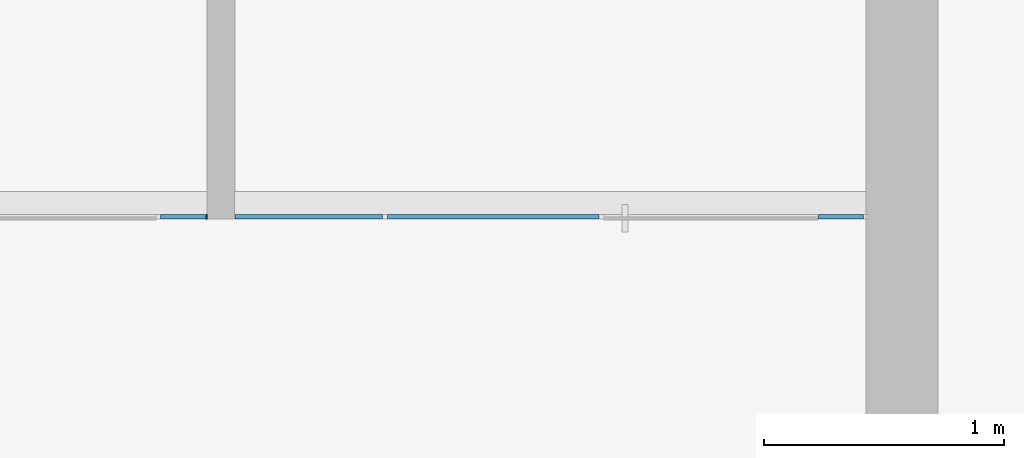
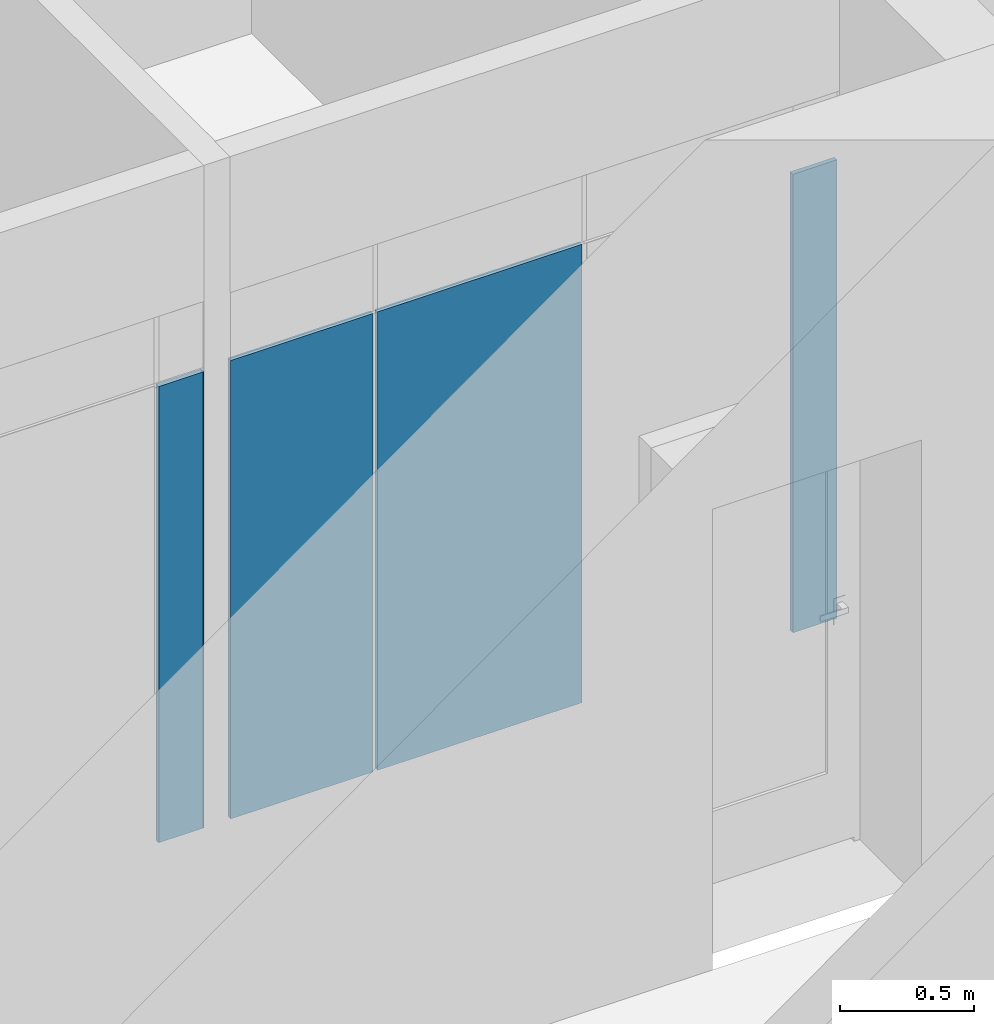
# One storey, part 12 of 49: 5 plates, 2 elements without a shape of their own.
"""IFC2X3 building model written with IfcOpenShell, lengths in millimetres."""

from ifc_helpers import new_model, entity, si_unit, converted_unit, derived_unit, direction, frame, origin, origin_2d_with_axis, place, context, subcontext, project, spatial, rectangle, extrude, source, transform, mapped, material, layer, layer_set, layer_usage, type_object, type_shapes, element, aggregate, save


model = new_model("IFC2X3")

# Units and contexts
model_context = context("Model", 3, precision=0.01, world=origin(), true_north=direction((6.12303176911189e-17, 1.0)))
body_context = subcontext(model_context, "Body", "Model", "MODEL_VIEW")
ifc_project = project(units=[si_unit("LENGTHUNIT", "METRE", prefix="MILLI"), si_unit("AREAUNIT", "SQUARE_METRE"), si_unit("VOLUMEUNIT", "CUBIC_METRE"), converted_unit("PLANEANGLEUNIT", "DEGREE", entity("IfcRatioMeasure", 0.0174532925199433), si_unit("PLANEANGLEUNIT", "RADIAN"), dimensions=[0, 0, 0, 0, 0, 0, 0]), si_unit("MASSUNIT", "GRAM", prefix="KILO"), derived_unit("MASSDENSITYUNIT", [(si_unit("MASSUNIT", "GRAM", prefix="KILO"), 1), (si_unit("LENGTHUNIT", "METRE"), -3)]), si_unit("TIMEUNIT", "SECOND"), si_unit("FREQUENCYUNIT", "HERTZ"), si_unit("THERMODYNAMICTEMPERATUREUNIT", "DEGREE_CELSIUS"), derived_unit("THERMALTRANSMITTANCEUNIT", [(si_unit("MASSUNIT", "GRAM", prefix="KILO"), 1), (si_unit("THERMODYNAMICTEMPERATUREUNIT", "KELVIN"), -1), (si_unit("TIMEUNIT", "SECOND"), -3)]), derived_unit("VOLUMETRICFLOWRATEUNIT", [(si_unit("LENGTHUNIT", "METRE"), 3), (si_unit("TIMEUNIT", "SECOND"), -1)]), si_unit("ELECTRICCURRENTUNIT", "AMPERE"), si_unit("ELECTRICVOLTAGEUNIT", "VOLT"), si_unit("POWERUNIT", "WATT"), si_unit("FORCEUNIT", "NEWTON", prefix="KILO"), si_unit("ILLUMINANCEUNIT", "LUX"), si_unit("LUMINOUSFLUXUNIT", "LUMEN"), si_unit("LUMINOUSINTENSITYUNIT", "CANDELA"), derived_unit("USERDEFINED", [(si_unit("MASSUNIT", "GRAM", prefix="KILO"), -1), (si_unit("LENGTHUNIT", "METRE"), -2), (si_unit("TIMEUNIT", "SECOND"), 3), (si_unit("LUMINOUSFLUXUNIT", "LUMEN"), 1)]), derived_unit("LINEARVELOCITYUNIT", [(si_unit("LENGTHUNIT", "METRE"), 1), (si_unit("TIMEUNIT", "SECOND"), -1)]), si_unit("PRESSUREUNIT", "PASCAL"), derived_unit("USERDEFINED", [(si_unit("LENGTHUNIT", "METRE"), -2), (si_unit("MASSUNIT", "GRAM", prefix="KILO"), 1), (si_unit("TIMEUNIT", "SECOND"), -2)])], contexts=[model_context])

# Site, building, storey
site_placement = place(None, frame((-151.875543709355, 2715.0, 0.0)))
site = spatial("IfcSite", under=ifc_project, at=site_placement, Name="Surface", CompositionType="ELEMENT")
building_placement = place(site_placement, origin())
building = spatial("IfcBuilding", under=site, at=building_placement, CompositionType="ELEMENT")
storey_placement = place(building_placement, origin())
storey = spatial("IfcBuildingStorey", under=building, at=storey_placement, Name="1 korrus", CompositionType="ELEMENT", Elevation=3.0969999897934e-10)

# Curtain wall, plates
curtain_wall_type_1 = type_object("IfcCurtainWallType", Name="Curtain Wall:Klaassein KLS-04", PredefinedType="NOTDEFINED")
curtain_wall_1_placement = place(storey_placement, origin())
curtain_wall_1 = element("IfcCurtainWall", 1, at=curtain_wall_1_placement, inside=storey, type_object=curtain_wall_type_1, Name="Curtain Wall:Klaassein KLS-04", ObjectType="Curtain Wall:Klaassein KLS-04")
ifc_material = material(Name="<Unnamed>")
ifc_layer = layer(ifc_material, 20.0)
ifc_layer_set = layer_set([ifc_layer], Name="Curtain Wall:Klaassein KLS-01")
ifc_layer_usage_1 = layer_usage(ifc_layer_set, "AXIS3", "POSITIVE", 0.0)
plate_type_1 = type_object("IfcPlateType", Name="Glazed", PredefinedType="CURTAIN_PANEL", material=ifc_layer_set)
shared_shape_1 = source(origin(), body_context, "Body", "SweptSolid", [
    extrude(rectangle(XDim=20.0, YDim=614.000000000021, at=origin_2d_with_axis()), frame((0.0, 0.0, 0.0), z_axis=(0.0, 0.0, 1.0), x_axis=(0.0, 1.0, 0.0)), (0.0, 0.0, 1.0), 2090.0),
])
type_shapes(plate_type_1, [shared_shape_1])
plate_1_placement = place(curtain_wall_1_placement, frame((26528.0994792, 7770.0, 0.0)))
plate_1 = element("IfcPlate", 2, at=plate_1_placement, type_object=plate_type_1, material=ifc_layer_usage_1, Name="System Panel:Glazed", ObjectType="Glazed", context=body_context, shape_type="MappedRepresentation", body=[
    mapped(shared_shape_1, transform((0.0, 0.0, 0.0), scale=1.0)),
])
ifc_layer_usage_2 = layer_usage(ifc_layer_set, "AXIS3", "POSITIVE", 0.0)
plate_type_2 = type_object("IfcPlateType", Name="Glazed", PredefinedType="CURTAIN_PANEL", material=ifc_layer_set)
shared_shape_2 = source(origin(), body_context, "Body", "SweptSolid", [
    extrude(rectangle(XDim=20.0, YDim=879.999999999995, at=origin_2d_with_axis()), frame((0.0, 0.0, 0.0), z_axis=(0.0, 0.0, 1.0), x_axis=(0.0, 1.0, 0.0)), (0.0, 0.0, 1.0), 2090.0),
])
type_shapes(plate_type_2, [shared_shape_2])
plate_2_placement = place(curtain_wall_1_placement, frame((27295.0994792, 7770.0, 0.0)))
plate_2 = element("IfcPlate", 3, at=plate_2_placement, type_object=plate_type_2, material=ifc_layer_usage_2, Name="System Panel:Glazed", ObjectType="Glazed", context=body_context, shape_type="MappedRepresentation", body=[
    mapped(shared_shape_2, transform((0.0, 0.0, 0.0), scale=1.0)),
])
ifc_layer_usage_3 = layer_usage(ifc_layer_set, "AXIS3", "POSITIVE", 0.0)
plate_type_3 = type_object("IfcPlateType", Name="Glazed", PredefinedType="CURTAIN_PANEL", material=ifc_layer_set)
shared_shape_3 = source(origin(), body_context, "Body", "SweptSolid", [
    extrude(rectangle(XDim=20.0, YDim=190.0, at=origin_2d_with_axis()), frame((0.0, 0.0, 0.0), z_axis=(0.0, 0.0, 1.0), x_axis=(0.0, 1.0, 0.0)), (0.0, 0.0, 1.0), 2090.0),
])
type_shapes(plate_type_3, [shared_shape_3])
plate_3_placement = place(curtain_wall_1_placement, frame((28740.0994792, 7770.0, 0.0)))
plate_3 = element("IfcPlate", 4, at=plate_3_placement, type_object=plate_type_3, material=ifc_layer_usage_3, Name="System Panel:Glazed", ObjectType="Glazed", context=body_context, shape_type="MappedRepresentation", body=[
    mapped(shared_shape_3, transform((0.0, 0.0, 0.0), scale=1.0)),
])
aggregate(curtain_wall_1, [plate_1, plate_2, plate_3])

curtain_wall_type_2 = type_object("IfcCurtainWallType", Name="Curtain Wall:Klaassein KLS-03", PredefinedType="NOTDEFINED")
curtain_wall_2_placement = place(storey_placement, origin())
curtain_wall_2 = element("IfcCurtainWall", 5, at=curtain_wall_2_placement, inside=storey, type_object=curtain_wall_type_2, Name="Curtain Wall:Klaassein KLS-03", ObjectType="Curtain Wall:Klaassein KLS-03")
ifc_layer_usage_4 = layer_usage(ifc_layer_set, "AXIS3", "POSITIVE", 0.0)
plate_type_4 = type_object("IfcPlateType", Name="Glazed", PredefinedType="CURTAIN_PANEL", material=ifc_layer_set)
shared_shape_4 = source(origin(), body_context, "Body", "SweptSolid", [
    extrude(rectangle(XDim=20.0, YDim=190.0, at=origin_2d_with_axis()), frame((0.0, 0.0, 0.0), z_axis=(0.0, 0.0, 1.0), x_axis=(0.0, 1.0, 0.0)), (0.0, 0.0, 1.0), 2080.0),
])
type_shapes(plate_type_4, [shared_shape_4])
plate_4_placement = place(curtain_wall_2_placement, frame((26006.2300720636, 7770.0, 0.0)))
plate_4 = element("IfcPlate", 6, at=plate_4_placement, type_object=plate_type_4, material=ifc_layer_usage_4, Name="System Panel:Glazed", ObjectType="Glazed", context=body_context, shape_type="MappedRepresentation", body=[
    mapped(shared_shape_4, transform((0.0, 0.0, 0.0), scale=1.0)),
])
ifc_layer_usage_5 = layer_usage(ifc_layer_set, "AXIS3", "POSITIVE", 0.0)
plate_type_5 = type_object("IfcPlateType", Name="Glazed", PredefinedType="CURTAIN_PANEL", material=ifc_layer_set)
shared_shape_5 = source(origin(), body_context, "Body", "SweptSolid", [
    extrude(rectangle(XDim=20.0, YDim=3.86940713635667, at=origin_2d_with_axis()), frame((0.0, 0.0, 0.0), z_axis=(0.0, 0.0, 1.0), x_axis=(0.0, 1.0, 0.0)), (0.0, 0.0, 1.0), 2080.0),
])
type_shapes(plate_type_5, [shared_shape_5])
plate_5_placement = place(curtain_wall_2_placement, frame((26103.1647756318, 7770.0, 0.0)))
plate_5 = element("IfcPlate", 7, at=plate_5_placement, type_object=plate_type_5, material=ifc_layer_usage_5, Name="System Panel:Glazed", ObjectType="Glazed", context=body_context, shape_type="MappedRepresentation", body=[
    mapped(shared_shape_5, transform((0.0, 0.0, 0.0), scale=1.0)),
])
aggregate(curtain_wall_2, [plate_4, plate_5])

save(model, "model.ifc")
